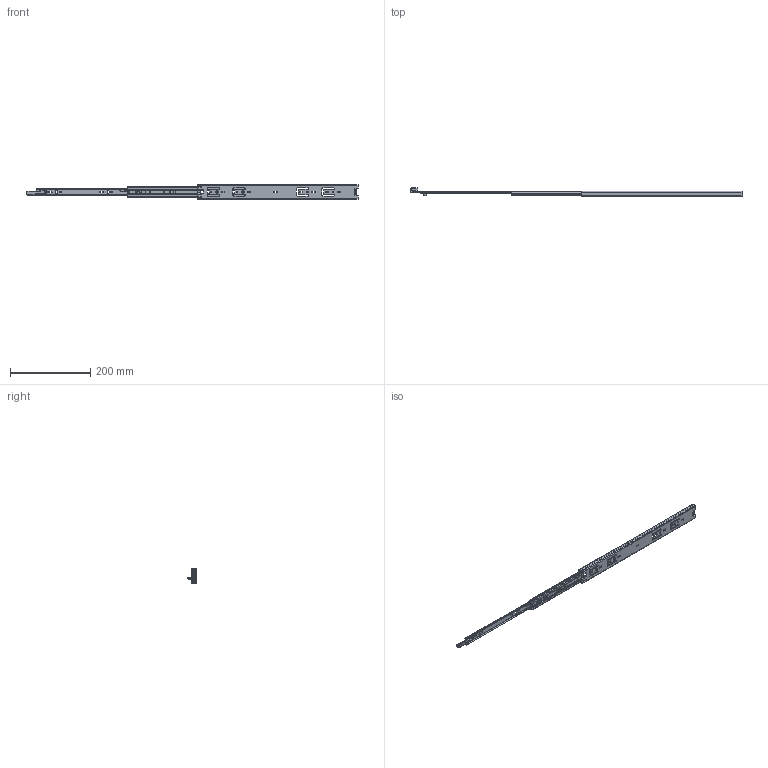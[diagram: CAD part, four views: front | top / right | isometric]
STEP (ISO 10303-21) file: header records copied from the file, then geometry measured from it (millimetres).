
FILE_DESCRIPTION((''),'2;1');
FILE_NAME('1037-BS-16ZUO_ASM','2023-05-08T',('jishu015'),(''),'PRO/ENGINEER BY PARAMETRIC TECHNOLOGY CORPORATION, 2010280','PRO/ENGINEER BY PARAMETRIC TECHNOLOGY CORPORATION, 2010280','');
FILE_SCHEMA(('CONFIG_CONTROL_DESIGN'));
Length unit declared in the file: millimetre
Products named in the file (18): KP-37-01WAIKE-20______; 1037WEIJIAO_______; WAIKE_____ASM; KP-37-01ZHONGGUI-20______; 1037ZIDIJIAO_______; ZHONGGUI_____ASM; 1045ZHUTIAO-219_____; 37-4-76GANZHU________; 45ZHUTIAO-219______ASM; KP-37-01NEIGUI-20______; 1037BACHA_______; 1037BANJI-ZUO-16; JINSUJIAO112____; XIN_____ASM; 37ZHUJIA-16GE_______; 4GANZHU_______; 37ZHUJIA-16GE________ASM; 1037-BS-16ZUO_ASM
Assembly tree (48 placements, depth 3):
  1037-BS-16ZUO_ASM
    WAIKE_____ASM
      KP-37-01WAIKE-20______
      1037WEIJIAO_______
    ZHONGGUI_____ASM
      KP-37-01ZHONGGUI-20______
      1037ZIDIJIAO_______
    45ZHUTIAO-219______ASM  x2
      1045ZHUTIAO-219_____
      37-4-76GANZHU________
    XIN_____ASM
      KP-37-01NEIGUI-20______
      1037BACHA_______
      1037BANJI-ZUO-16
      JINSUJIAO112____
    37ZHUJIA-16GE________ASM
      37ZHUJIA-16GE_______
      4GANZHU_______  x28
Bounding box: 825.04 x 20.7 x 37.2 mm (x, y, z)
Volume: 71060.5 mm3; surface area: 124463.7 mm2
Topology: 48 solids, 48 shells, 1338 faces, 3824 edges, 2366 vertices
Faces by surface type: plane 700, cylinder 511, sphere 77, bspline 37, torus 7, cone 6
Entity records: 42006 total; most frequent: CARTESIAN_POINT 9185, ORIENTED_EDGE 6878, DIRECTION 6859, EDGE_CURVE 3439, AXIS2_PLACEMENT_3D 2305, VECTOR 2249, LINE 2249, VERTEX_POINT 2186
